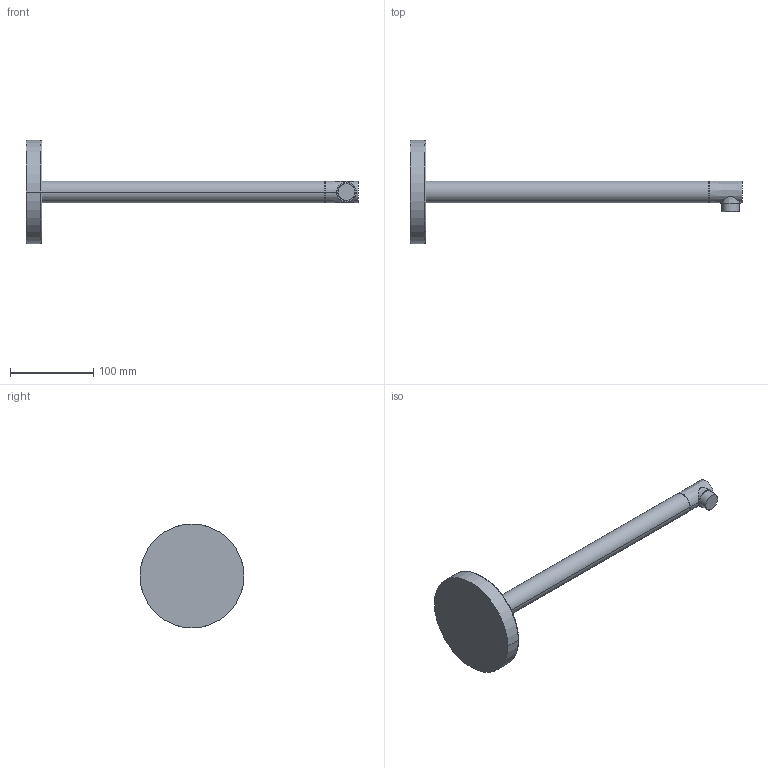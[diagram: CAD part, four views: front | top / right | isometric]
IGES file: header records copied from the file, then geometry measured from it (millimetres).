
Start section:  PTC IGES file: 26_000_811_xxx.igs
Global section: file name: 26_000_811_xxx.igs; native system: Creo Elements/Pro by Parametric Technology Corporation; preprocessor: 2011080; author: hpf; organization: Unknown; date: 20120113.133424; units: millimetre
Bounding box: 400 x 125 x 125 mm (x, y, z)
Volume: 435187.9 mm3; surface area: 63693.2 mm2
Topology: 1 solids, 1 shells, 23 faces, 45 edges, 28 vertices
Faces by surface type: revolution 16, bspline 7
